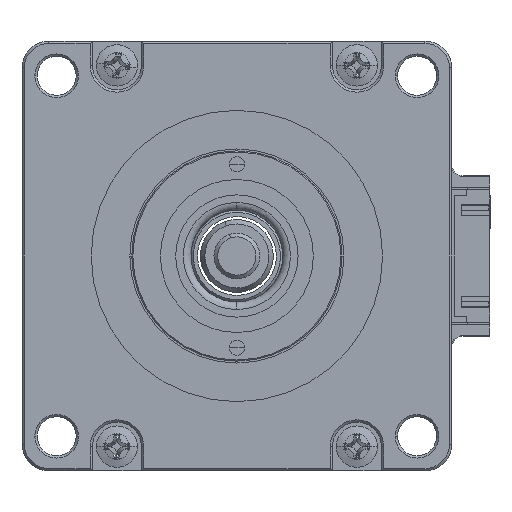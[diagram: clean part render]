
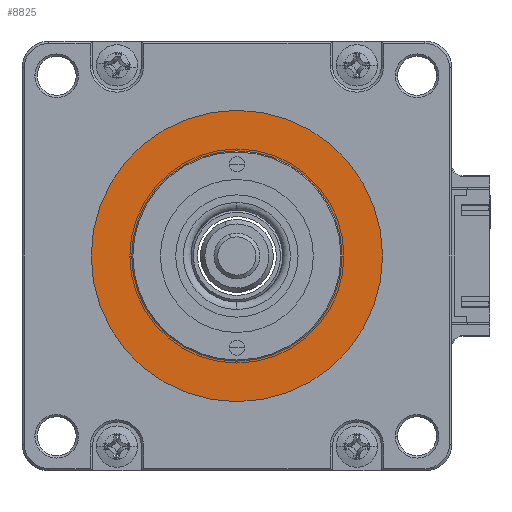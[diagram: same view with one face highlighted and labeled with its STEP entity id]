
A CAD part, left-side view. The second image highlights one B-rep face of the part: STEP entity #8825.
In plain terms, the highlighted planar face has unit normal (-1, 0, 0).
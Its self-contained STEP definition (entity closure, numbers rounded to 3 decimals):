
#286 = CARTESIAN_POINT ( 'NONE',  ( -49.623, 29.072, 72.9 ) ) ;
#1125 = DIRECTION ( 'NONE',  ( -1., 0., 0. ) ) ;
#1253 = DIRECTION ( 'NONE',  ( -1., 0., 0. ) ) ;
#1831 = EDGE_LOOP ( 'NONE', ( #10572, #11572 ) ) ;
#2075 = FACE_OUTER_BOUND ( 'NONE', #3525, .T. ) ;
#2161 = PLANE ( 'NONE',  #11205 ) ;
#3020 = CARTESIAN_POINT ( 'NONE',  ( -49.623, 4.472, 48.3 ) ) ;
#3415 = DIRECTION ( 'NONE',  ( -1., 0., 0. ) ) ;
#3525 = EDGE_LOOP ( 'NONE', ( #8579, #7123 ) ) ;
#3856 = VERTEX_POINT ( 'NONE', #8947 ) ;
#3933 = VERTEX_POINT ( 'NONE', #5215 ) ;
#3970 = AXIS2_PLACEMENT_3D ( 'NONE', #6875, #1125, #7807 ) ;
#3984 = DIRECTION ( 'NONE',  ( 0., -1., 0. ) ) ;
#4580 = CIRCLE ( 'NONE', #3970, 19.05 ) ;
#4928 = FACE_BOUND ( 'NONE', #1831, .T. ) ;
#5185 = CARTESIAN_POINT ( 'NONE',  ( -49.623, 4.472, 48.3 ) ) ;
#5215 = CARTESIAN_POINT ( 'NONE',  ( -49.623, 23.522, 48.3 ) ) ;
#5380 = CARTESIAN_POINT ( 'NONE',  ( -49.623, -9.278, 48.3 ) ) ;
#5657 = AXIS2_PLACEMENT_3D ( 'NONE', #5185, #11850, #6190 ) ;
#5763 = EDGE_CURVE ( 'NONE', #3856, #3933, #7583, .T. ) ;
#6190 = DIRECTION ( 'NONE',  ( 0., -1., 0. ) ) ;
#6506 = EDGE_CURVE ( 'NONE', #10060, #11754, #9658, .T. ) ;
#6520 = EDGE_CURVE ( 'NONE', #3933, #3856, #4580, .T. ) ;
#6697 = EDGE_CURVE ( 'NONE', #11754, #10060, #7841, .T. ) ;
#6875 = CARTESIAN_POINT ( 'NONE',  ( -49.623, 4.472, 48.3 ) ) ;
#7123 = ORIENTED_EDGE ( 'NONE', *, *, #6520, .T. ) ;
#7583 = CIRCLE ( 'NONE', #5657, 19.05 ) ;
#7807 = DIRECTION ( 'NONE',  ( 0., -1., 0. ) ) ;
#7841 = CIRCLE ( 'NONE', #11852, 13.75 ) ;
#7927 = DIRECTION ( 'NONE',  ( 0., -1., 0. ) ) ;
#8579 = ORIENTED_EDGE ( 'NONE', *, *, #5763, .T. ) ;
#8825 = ADVANCED_FACE ( 'NONE', ( #4928, #2075 ), #2161, .T. ) ;
#8947 = CARTESIAN_POINT ( 'NONE',  ( -49.623, -14.578, 48.3 ) ) ;
#9141 = CARTESIAN_POINT ( 'NONE',  ( -49.623, 4.472, 48.3 ) ) ;
#9547 = CARTESIAN_POINT ( 'NONE',  ( -49.623, 18.222, 48.3 ) ) ;
#9658 = CIRCLE ( 'NONE', #9798, 13.75 ) ;
#9692 = DIRECTION ( 'NONE',  ( -1., 0., 0. ) ) ;
#9798 = AXIS2_PLACEMENT_3D ( 'NONE', #3020, #9692, #3984 ) ;
#10060 = VERTEX_POINT ( 'NONE', #5380 ) ;
#10101 = DIRECTION ( 'NONE',  ( 0., -1., 0. ) ) ;
#10572 = ORIENTED_EDGE ( 'NONE', *, *, #6697, .F. ) ;
#11205 = AXIS2_PLACEMENT_3D ( 'NONE', #286, #1253, #7927 ) ;
#11572 = ORIENTED_EDGE ( 'NONE', *, *, #6506, .F. ) ;
#11754 = VERTEX_POINT ( 'NONE', #9547 ) ;
#11850 = DIRECTION ( 'NONE',  ( -1., 0., 0. ) ) ;
#11852 = AXIS2_PLACEMENT_3D ( 'NONE', #9141, #3415, #10101 ) ;
